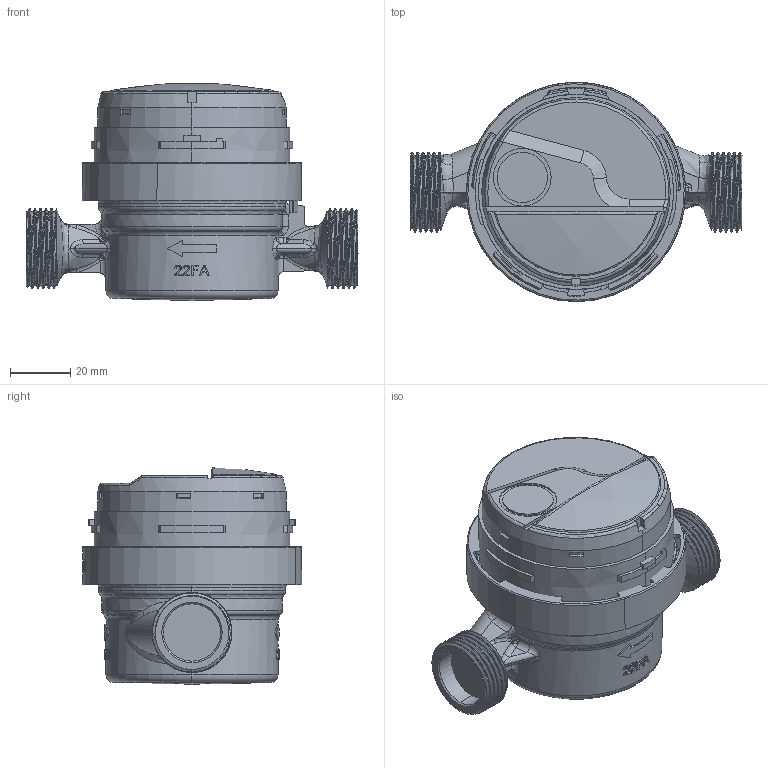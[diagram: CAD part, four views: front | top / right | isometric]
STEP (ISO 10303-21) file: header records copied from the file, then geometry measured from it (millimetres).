
FILE_DESCRIPTION (( 'STEP AP214' ), '1' );
FILE_NAME ('JS90-2,5-07.STEP', '2022-09-15T08:03:37', ( '' ), ( '' ), 'SwSTEP 2.0', 'SolidWorks 2019', '' );
FILE_SCHEMA (( 'AUTOMOTIVE_DESIGN' ));
Length unit declared in the file: millimetre
Products named in the file (8): 9060-000022; Assembly-1108; 9004-750201; JS90-2,5-07; js2,5; szklanka; Liczyd³o; 9004-750202_zagi﹖a
Assembly tree (7 placements, depth 3):
  JS90-2,5-07
    js2,5
    Liczyd³o
    Assembly-1108
      9004-750201
      9004-750202_zagi﹖a
    szklanka
    9060-000022
Bounding box: 110 x 72.71 x 71.95 mm (x, y, z)
Volume: 206547.1 mm3; surface area: 62441.8 mm2
Topology: 6 solids, 15 shells, 1933 faces, 5329 edges, 3473 vertices
Faces by surface type: plane 777, bspline 511, cylinder 429, cone 139, torus 64, sphere 13
Entity records: 125211 total; most frequent: CARTESIAN_POINT 65046, ORIENTED_EDGE 10618, DIRECTION 7707, EDGE_CURVE 5309, VERTEX_POINT 3473, AXIS2_PLACEMENT_3D 2861, EDGE_LOOP 2088, LINE 1985
